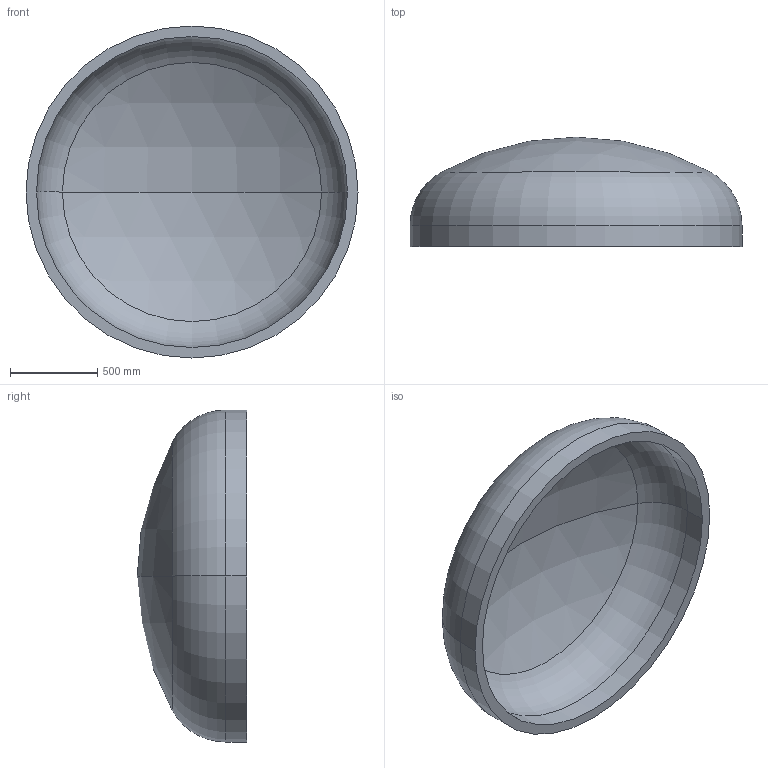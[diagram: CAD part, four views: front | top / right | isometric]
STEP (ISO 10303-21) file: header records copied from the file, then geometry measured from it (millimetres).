
FILE_DESCRIPTION (( 'STEP AP203' ), '1' );
FILE_NAME ('DIN 28013 Korbbogenform_-_Boden DIN 28013 - 1900 x 120 - I - s=60.step', '2016-07-01T13:15:15', ( '' ), ( '' ), 'SwSTEP 2.0', 'SolidWorks 2013', '' );
FILE_SCHEMA (( 'CONFIG_CONTROL_DESIGN' ));
Length unit declared in the file: millimetre
Products named in the file (1): DIN 28013 Korbbogenform_-_Boden DIN 28013 - 1900 x 120 - I - s=60
Bounding box: 1900 x 626.27 x 1900 mm (x, y, z)
Volume: 267315374.9 mm3; surface area: 9264881.5 mm2
Topology: 1 solids, 1 shells, 13 faces, 24 edges, 14 vertices
Faces by surface type: torus 4, cylinder 4, sphere 4, plane 1
Entity records: 407 total; most frequent: DIRECTION 72, CARTESIAN_POINT 52, ORIENTED_EDGE 48, AXIS2_PLACEMENT_3D 34, EDGE_CURVE 24, CIRCLE 20, VERTEX_POINT 14, EDGE_LOOP 14
